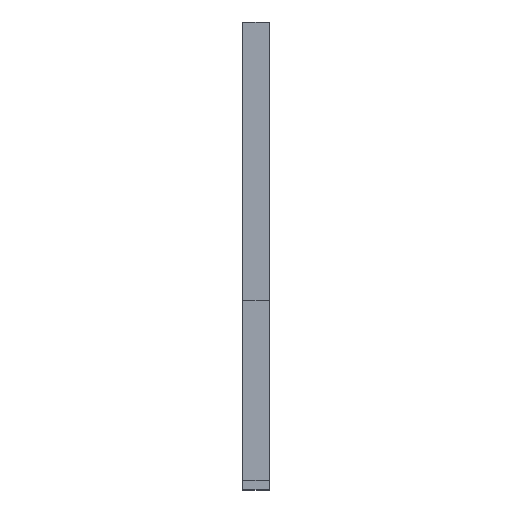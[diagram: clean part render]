
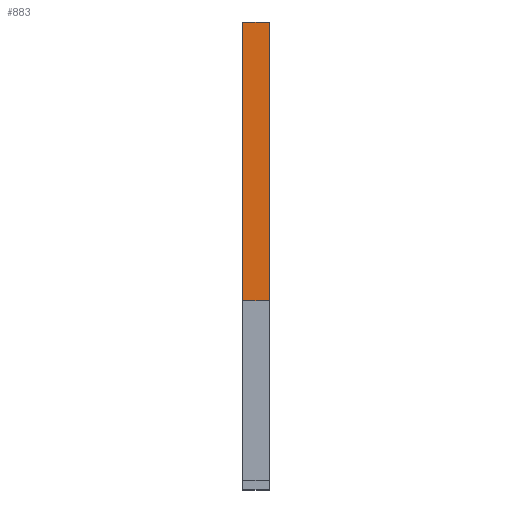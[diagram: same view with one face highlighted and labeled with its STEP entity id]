
A CAD part, top view. The second image highlights one B-rep face of the part: STEP entity #883.
In plain terms, the highlighted planar face has unit normal (0, 0, 1).
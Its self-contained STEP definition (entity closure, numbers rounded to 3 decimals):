
#27 = LINE ( 'NONE', #823, #30 ) ;
#29 = LINE ( 'NONE', #771, #33 ) ;
#30 = VECTOR ( 'NONE', #824, 1000. ) ;
#33 = VECTOR ( 'NONE', #770, 1000. ) ;
#65 = FACE_OUTER_BOUND ( 'NONE', #263, .T. ) ;
#77 = VECTOR ( 'NONE', #555, 1000. ) ;
#91 = LINE ( 'NONE', #802, #92 ) ;
#92 = VECTOR ( 'NONE', #805, 1000. ) ;
#105 = LINE ( 'NONE', #523, #77 ) ;
#263 = EDGE_LOOP ( 'NONE', ( #302, #300, #311, #292 ) ) ;
#292 = ORIENTED_EDGE ( 'NONE', *, *, #479, .T. ) ;
#300 = ORIENTED_EDGE ( 'NONE', *, *, #446, .F. ) ;
#302 = ORIENTED_EDGE ( 'NONE', *, *, #411, .T. ) ;
#311 = ORIENTED_EDGE ( 'NONE', *, *, #462, .F. ) ;
#410 = AXIS2_PLACEMENT_3D ( 'NONE', #658, #649, #648 ) ;
#411 = EDGE_CURVE ( 'NONE', #825, #809, #91, .T. ) ;
#446 = EDGE_CURVE ( 'NONE', #542, #809, #105, .T. ) ;
#462 = EDGE_CURVE ( 'NONE', #516, #542, #27, .T. ) ;
#479 = EDGE_CURVE ( 'NONE', #516, #825, #29, .T. ) ;
#516 = VERTEX_POINT ( 'NONE', #780 ) ;
#523 = CARTESIAN_POINT ( 'NONE',  ( 3., 10., 7. ) ) ;
#542 = VERTEX_POINT ( 'NONE', #755 ) ;
#555 = DIRECTION ( 'NONE',  ( -1., 0., 0. ) ) ;
#648 = DIRECTION ( 'NONE',  ( 0., 1., 0. ) ) ;
#649 = DIRECTION ( 'NONE',  ( 0., 0., -1. ) ) ;
#658 = CARTESIAN_POINT ( 'NONE',  ( 3., 10., 7. ) ) ;
#666 = PLANE ( 'NONE',  #410 ) ;
#734 = CARTESIAN_POINT ( 'NONE',  ( 0., 41., 7. ) ) ;
#742 = CARTESIAN_POINT ( 'NONE',  ( 0., 10., 7. ) ) ;
#755 = CARTESIAN_POINT ( 'NONE',  ( 3., 10., 7. ) ) ;
#770 = DIRECTION ( 'NONE',  ( -1., 0., 0. ) ) ;
#771 = CARTESIAN_POINT ( 'NONE',  ( 3., 41., 7. ) ) ;
#780 = CARTESIAN_POINT ( 'NONE',  ( 3., 41., 7. ) ) ;
#802 = CARTESIAN_POINT ( 'NONE',  ( 0., 10., 7. ) ) ;
#805 = DIRECTION ( 'NONE',  ( 0., -1., 0. ) ) ;
#809 = VERTEX_POINT ( 'NONE', #742 ) ;
#823 = CARTESIAN_POINT ( 'NONE',  ( 3., 10., 7. ) ) ;
#824 = DIRECTION ( 'NONE',  ( 0., -1., 0. ) ) ;
#825 = VERTEX_POINT ( 'NONE', #734 ) ;
#883 = ADVANCED_FACE ( 'NONE', ( #65 ), #666, .F. ) ;
